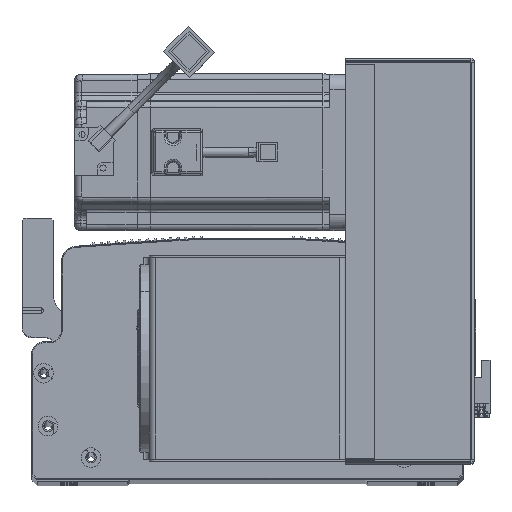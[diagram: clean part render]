
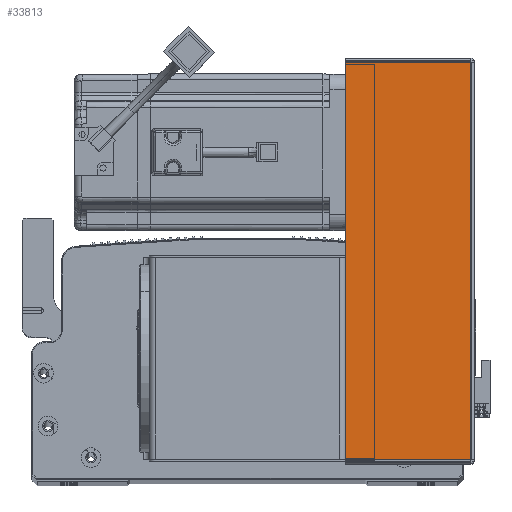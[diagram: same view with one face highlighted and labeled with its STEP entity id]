
A CAD part, top view. The second image highlights one B-rep face of the part: STEP entity #33813.
In plain terms, the highlighted planar face has unit normal (0, 0, 1) as drawn and (0, -1, 0) by its records, which use the part's own axes.
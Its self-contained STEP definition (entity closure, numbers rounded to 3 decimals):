
#2524 = FACE_OUTER_BOUND ( 'NONE', #17136, .T. ) ;
#4202 = EDGE_CURVE ( 'NONE', #82519, #65992, #5772, .T. ) ;
#5772 = LINE ( 'NONE', #28398, #45152 ) ;
#10782 = ORIENTED_EDGE ( 'NONE', *, *, #58435, .F. ) ;
#10891 = ORIENTED_EDGE ( 'NONE', *, *, #79586, .T. ) ;
#11561 = PLANE ( 'NONE',  #68221 ) ;
#14155 = DIRECTION ( 'NONE',  ( 1., 0., 0. ) ) ;
#17136 = EDGE_LOOP ( 'NONE', ( #10782, #73360, #10891, #84327 ) ) ;
#18136 = DIRECTION ( 'NONE',  ( 0., 1., 0. ) ) ;
#24707 = CARTESIAN_POINT ( 'NONE',  ( 0., -1.5, 0. ) ) ;
#28398 = CARTESIAN_POINT ( 'NONE',  ( 0., -1.5, -0.707 ) ) ;
#32173 = LINE ( 'NONE', #50095, #73638 ) ;
#33813 = ADVANCED_FACE ( 'NONE', ( #2524 ), #11561, .F. ) ;
#40071 = CARTESIAN_POINT ( 'NONE',  ( 0.737, -1.5, -0.707 ) ) ;
#45152 = VECTOR ( 'NONE', #75977, 1000. ) ;
#48925 = EDGE_CURVE ( 'NONE', #61328, #51831, #64582, .T. ) ;
#49477 = LINE ( 'NONE', #75626, #57982 ) ;
#50095 = CARTESIAN_POINT ( 'NONE',  ( 64.5, -1.5, 0. ) ) ;
#51831 = VERTEX_POINT ( 'NONE', #56132 ) ;
#56132 = CARTESIAN_POINT ( 'NONE',  ( 64.5, -1.5, -203.293 ) ) ;
#57982 = VECTOR ( 'NONE', #82158, 1000. ) ;
#58435 = EDGE_CURVE ( 'NONE', #61328, #82519, #49477, .T. ) ;
#59278 = VECTOR ( 'NONE', #14155, 1000. ) ;
#61328 = VERTEX_POINT ( 'NONE', #73768 ) ;
#64582 = LINE ( 'NONE', #86183, #59278 ) ;
#65816 = CARTESIAN_POINT ( 'NONE',  ( 64.5, -1.5, -0.707 ) ) ;
#65992 = VERTEX_POINT ( 'NONE', #65816 ) ;
#68221 = AXIS2_PLACEMENT_3D ( 'NONE', #24707, #18136, #72023 ) ;
#72023 = DIRECTION ( 'NONE',  ( -1., 0., 0. ) ) ;
#73360 = ORIENTED_EDGE ( 'NONE', *, *, #48925, .T. ) ;
#73638 = VECTOR ( 'NONE', #83646, 1000. ) ;
#73768 = CARTESIAN_POINT ( 'NONE',  ( 0.737, -1.5, -203.293 ) ) ;
#75626 = CARTESIAN_POINT ( 'NONE',  ( 0.737, -1.5, 0. ) ) ;
#75977 = DIRECTION ( 'NONE',  ( 1., 0., 0. ) ) ;
#79586 = EDGE_CURVE ( 'NONE', #51831, #65992, #32173, .T. ) ;
#82158 = DIRECTION ( 'NONE',  ( 0., 0., 1. ) ) ;
#82519 = VERTEX_POINT ( 'NONE', #40071 ) ;
#83646 = DIRECTION ( 'NONE',  ( 0., 0., 1. ) ) ;
#84327 = ORIENTED_EDGE ( 'NONE', *, *, #4202, .F. ) ;
#86183 = CARTESIAN_POINT ( 'NONE',  ( 0., -1.5, -203.293 ) ) ;
